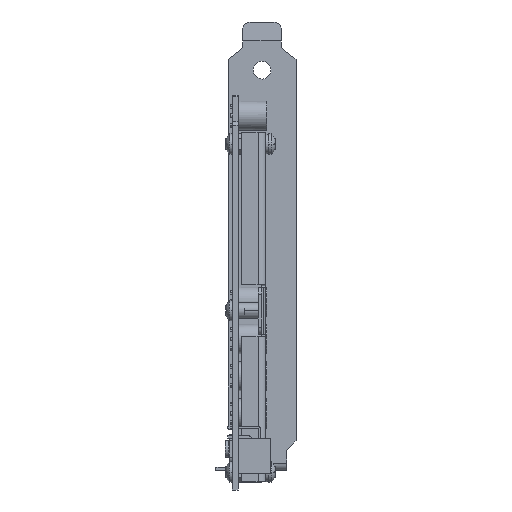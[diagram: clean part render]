
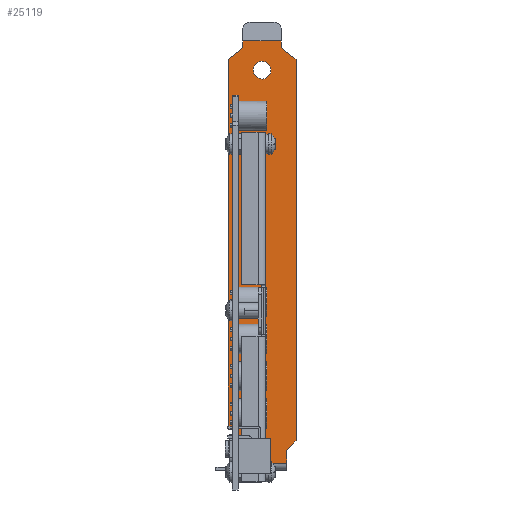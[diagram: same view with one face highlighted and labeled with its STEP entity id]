
A CAD part, front view. The second image highlights one B-rep face of the part: STEP entity #25119.
In plain terms, the highlighted planar face has unit normal (0, -1, 0).
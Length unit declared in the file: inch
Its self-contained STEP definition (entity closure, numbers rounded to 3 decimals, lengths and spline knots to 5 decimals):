
#4118=DIRECTION('',(0.,0.,1.));
#4119=VECTOR('',#4118,0.30948);
#4120=CARTESIAN_POINT('',(0.00593,0.33,
-3.72007));
#4121=LINE('',#4120,#4119);
#4122=CARTESIAN_POINT('',(-0.011,0.33,-3.3866));
#4123=DIRECTION('',(0.,1.,0.));
#4124=DIRECTION('',(0.,0.,1.));
#4125=AXIS2_PLACEMENT_3D('',#4122,#4123,#4124);
#4127=DIRECTION('',(-1.,0.,0.));
#4128=VECTOR('',#4127,0.036);
#4129=CARTESIAN_POINT('',(-0.011,0.33,-3.3572));
#4130=LINE('',#4129,#4128);
#4131=DIRECTION('',(0.,0.,-1.));
#4132=VECTOR('',#4131,3.9261);
#4133=CARTESIAN_POINT('',(-0.047,0.33,0.5689));
#4134=LINE('',#4133,#4132);
#4135=DIRECTION('',(-0.788,0.,-0.616));
#4136=VECTOR('',#4135,0.1967);
#4137=CARTESIAN_POINT('',(0.108,0.33,0.69));
#4138=LINE('',#4137,#4136);
#4139=DIRECTION('',(0.,0.,-1.));
#4140=VECTOR('',#4139,0.074);
#4141=CARTESIAN_POINT('',(0.108,0.33,0.764));
#4142=LINE('',#4141,#4140);
#4143=DIRECTION('',(1.,0.,0.));
#4144=VECTOR('',#4143,0.412);
#4145=CARTESIAN_POINT('',(0.108,0.33,0.764));
#4146=LINE('',#4145,#4144);
#4147=DIRECTION('',(0.,0.,-1.));
#4148=VECTOR('',#4147,0.074);
#4149=CARTESIAN_POINT('',(0.52,0.33,0.764));
#4150=LINE('',#4149,#4148);
#4151=DIRECTION('',(-0.788,0.,0.616));
#4152=VECTOR('',#4151,0.1967);
#4153=CARTESIAN_POINT('',(0.675,0.33,0.5689));
#4154=LINE('',#4153,#4152);
#4155=DIRECTION('',(0.707,0.,0.707));
#4156=VECTOR('',#4155,0.14142);
#4157=CARTESIAN_POINT('',(0.575,0.33,-3.583));
#4158=LINE('',#4157,#4156);
#4159=DIRECTION('',(0.,0.,1.));
#4160=VECTOR('',#4159,0.137);
#4161=CARTESIAN_POINT('',(0.575,0.33,-3.72));
#4162=LINE('',#4161,#4160);
#4163=DIRECTION('',(-1.,0.,0.));
#4164=VECTOR('',#4163,0.56907);
#4165=CARTESIAN_POINT('',(0.575,0.33,-3.72));
#4166=LINE('',#4165,#4164);
#4167=CARTESIAN_POINT('',(0.314,0.33,0.453));
#4168=DIRECTION('',(0.,1.,0.));
#4169=DIRECTION('',(0.,0.,1.));
#4170=AXIS2_PLACEMENT_3D('',#4167,#4168,#4169);
#4172=CARTESIAN_POINT('',(0.314,0.33,0.453));
#4173=DIRECTION('',(0.,1.,0.));
#4174=DIRECTION('',(0.,0.,-1.));
#4175=AXIS2_PLACEMENT_3D('',#4172,#4173,#4174);
#4177=CARTESIAN_POINT('',(0.239,0.33,-2.795));
#4178=DIRECTION('',(0.,1.,0.));
#4179=DIRECTION('',(1.,0.,0.));
#4180=AXIS2_PLACEMENT_3D('',#4177,#4178,#4179);
#4182=CARTESIAN_POINT('',(0.239,0.33,-2.795));
#4183=DIRECTION('',(0.,1.,0.));
#4184=DIRECTION('',(-1.,0.,0.));
#4185=AXIS2_PLACEMENT_3D('',#4182,#4183,#4184);
#4187=CARTESIAN_POINT('',(0.239,0.33,-2.4));
#4188=DIRECTION('',(0.,1.,0.));
#4189=DIRECTION('',(1.,0.,0.));
#4190=AXIS2_PLACEMENT_3D('',#4187,#4188,#4189);
#4192=CARTESIAN_POINT('',(0.239,0.33,-2.4));
#4193=DIRECTION('',(0.,1.,0.));
#4194=DIRECTION('',(-1.,0.,0.));
#4195=AXIS2_PLACEMENT_3D('',#4192,#4193,#4194);
#4197=CARTESIAN_POINT('',(0.239,0.33,-2.005));
#4198=DIRECTION('',(0.,1.,0.));
#4199=DIRECTION('',(1.,0.,0.));
#4200=AXIS2_PLACEMENT_3D('',#4197,#4198,#4199);
#4202=CARTESIAN_POINT('',(0.239,0.33,-2.005));
#4203=DIRECTION('',(0.,1.,0.));
#4204=DIRECTION('',(-1.,0.,0.));
#4205=AXIS2_PLACEMENT_3D('',#4202,#4203,#4204);
#4207=CARTESIAN_POINT('',(0.239,0.33,-3.19));
#4208=DIRECTION('',(0.,1.,0.));
#4209=DIRECTION('',(1.,0.,0.));
#4210=AXIS2_PLACEMENT_3D('',#4207,#4208,#4209);
#4212=CARTESIAN_POINT('',(0.239,0.33,-3.19));
#4213=DIRECTION('',(0.,1.,0.));
#4214=DIRECTION('',(-1.,0.,0.));
#4215=AXIS2_PLACEMENT_3D('',#4212,#4213,#4214);
#4217=CARTESIAN_POINT('',(0.239,0.33,-0.03));
#4218=DIRECTION('',(0.,-1.,0.));
#4219=DIRECTION('',(1.,0.,0.));
#4220=AXIS2_PLACEMENT_3D('',#4217,#4218,#4219);
#4222=CARTESIAN_POINT('',(0.239,0.33,-0.03));
#4223=DIRECTION('',(0.,-1.,0.));
#4224=DIRECTION('',(-1.,0.,0.));
#4225=AXIS2_PLACEMENT_3D('',#4222,#4223,#4224);
#4355=DIRECTION('',(0.,0.,1.));
#4356=VECTOR('',#4355,4.0519);
#4357=CARTESIAN_POINT('',(0.675,0.33,-3.483));
#4358=LINE('',#4357,#4356);
#19092=CARTESIAN_POINT('',(0.575,0.33,-3.72));
#19094=VERTEX_POINT('',#19092);
#19096=CARTESIAN_POINT('',(0.575,0.33,-3.583));
#19097=VERTEX_POINT('',#19096);
#19098=CARTESIAN_POINT('',(0.675,0.33,-3.483));
#19099=VERTEX_POINT('',#19098);
#19100=CARTESIAN_POINT('',(0.108,0.33,0.69));
#19101=CARTESIAN_POINT('',(-0.047,0.33,0.5689));
#19102=VERTEX_POINT('',#19100);
#19103=VERTEX_POINT('',#19101);
#19104=CARTESIAN_POINT('',(0.675,0.33,0.5689));
#19105=CARTESIAN_POINT('',(0.52,0.33,0.69));
#19106=VERTEX_POINT('',#19104);
#19107=VERTEX_POINT('',#19105);
#19212=CARTESIAN_POINT('',(0.314,0.33,0.5465));
#19213=CARTESIAN_POINT('',(0.314,0.33,0.3595));
#19214=VERTEX_POINT('',#19212);
#19215=VERTEX_POINT('',#19213);
#19216=CARTESIAN_POINT('',(0.108,0.33,0.764));
#19217=VERTEX_POINT('',#19216);
#19218=CARTESIAN_POINT('',(0.52,0.33,0.764));
#19219=VERTEX_POINT('',#19218);
#19236=CARTESIAN_POINT('',(0.364,0.33,-2.795));
#19237=CARTESIAN_POINT('',(0.114,0.33,-2.795));
#19238=VERTEX_POINT('',#19236);
#19239=VERTEX_POINT('',#19237);
#19256=CARTESIAN_POINT('',(0.364,0.33,-2.4));
#19257=CARTESIAN_POINT('',(0.114,0.33,-2.4));
#19258=VERTEX_POINT('',#19256);
#19259=VERTEX_POINT('',#19257);
#19260=CARTESIAN_POINT('',(0.364,0.33,-2.005));
#19261=CARTESIAN_POINT('',(0.114,0.33,-2.005));
#19262=VERTEX_POINT('',#19260);
#19263=VERTEX_POINT('',#19261);
#19264=CARTESIAN_POINT('',(0.364,0.33,-3.19));
#19265=CARTESIAN_POINT('',(0.114,0.33,-3.19));
#19266=VERTEX_POINT('',#19264);
#19267=VERTEX_POINT('',#19265);
#19284=CARTESIAN_POINT('',(-0.011,0.33,-3.3572));
#19285=CARTESIAN_POINT('',(-0.047,0.33,-3.3572));
#19286=VERTEX_POINT('',#19284);
#19287=VERTEX_POINT('',#19285);
#19300=CARTESIAN_POINT('',(0.006,0.33,-3.41059));
#19301=VERTEX_POINT('',#19300);
#19305=CARTESIAN_POINT('',(0.00593,0.33,
-3.72007));
#19306=VERTEX_POINT('',#19305);
#20263=CARTESIAN_POINT('',(0.363,0.33,-0.03));
#20264=CARTESIAN_POINT('',(0.115,0.33,-0.03));
#20265=VERTEX_POINT('',#20263);
#20266=VERTEX_POINT('',#20264);
#25053=CARTESIAN_POINT('',(0.675,0.33,-3.72));
#25054=DIRECTION('',(0.,1.,0.));
#25055=DIRECTION('',(0.,0.,1.));
#25056=AXIS2_PLACEMENT_3D('',#25053,#25054,#25055);
#25057=PLANE('',#25056);
#25058=ORIENTED_EDGE('',*,*,#24775,.T.);
#25059=ORIENTED_EDGE('',*,*,#24830,.F.);
#25061=ORIENTED_EDGE('',*,*,#25060,.T.);
#25063=ORIENTED_EDGE('',*,*,#25062,.F.);
#25065=ORIENTED_EDGE('',*,*,#25064,.F.);
#25067=ORIENTED_EDGE('',*,*,#25066,.F.);
#25069=ORIENTED_EDGE('',*,*,#25068,.T.);
#25071=ORIENTED_EDGE('',*,*,#25070,.T.);
#25073=ORIENTED_EDGE('',*,*,#25072,.F.);
#25075=ORIENTED_EDGE('',*,*,#25074,.F.);
#25077=ORIENTED_EDGE('',*,*,#25076,.F.);
#25079=ORIENTED_EDGE('',*,*,#25078,.F.);
#25080=ORIENTED_EDGE('',*,*,#25040,.T.);
#25081=EDGE_LOOP('',(#25058,#25059,#25061,#25063,#25065,#25067,#25069,#25071,
#25073,#25075,#25077,#25079,#25080));
#25082=FACE_OUTER_BOUND('',#25081,.F.);
#25084=ORIENTED_EDGE('',*,*,#25083,.F.);
#25086=ORIENTED_EDGE('',*,*,#25085,.F.);
#25087=EDGE_LOOP('',(#25084,#25086));
#25088=FACE_BOUND('',#25087,.F.);
#25090=ORIENTED_EDGE('',*,*,#25089,.F.);
#25092=ORIENTED_EDGE('',*,*,#25091,.F.);
#25093=EDGE_LOOP('',(#25090,#25092));
#25094=FACE_BOUND('',#25093,.F.);
#25096=ORIENTED_EDGE('',*,*,#25095,.F.);
#25098=ORIENTED_EDGE('',*,*,#25097,.F.);
#25099=EDGE_LOOP('',(#25096,#25098));
#25100=FACE_BOUND('',#25099,.F.);
#25102=ORIENTED_EDGE('',*,*,#25101,.F.);
#25104=ORIENTED_EDGE('',*,*,#25103,.F.);
#25105=EDGE_LOOP('',(#25102,#25104));
#25106=FACE_BOUND('',#25105,.F.);
#25108=ORIENTED_EDGE('',*,*,#25107,.F.);
#25110=ORIENTED_EDGE('',*,*,#25109,.F.);
#25111=EDGE_LOOP('',(#25108,#25110));
#25112=FACE_BOUND('',#25111,.F.);
#25114=ORIENTED_EDGE('',*,*,#25113,.T.);
#25116=ORIENTED_EDGE('',*,*,#25115,.T.);
#25117=EDGE_LOOP('',(#25114,#25116));
#25118=FACE_BOUND('',#25117,.F.);
#25119=ADVANCED_FACE('',(#25082,#25088,#25094,#25100,#25106,#25112,#25118),
#25057,.F.);
#4126=CIRCLE('',#4125,0.0294);
#4171=CIRCLE('',#4170,0.0935);
#4176=CIRCLE('',#4175,0.0935);
#4181=CIRCLE('',#4180,0.125);
#4186=CIRCLE('',#4185,0.125);
#4191=CIRCLE('',#4190,0.125);
#4196=CIRCLE('',#4195,0.125);
#4201=CIRCLE('',#4200,0.125);
#4206=CIRCLE('',#4205,0.125);
#4211=CIRCLE('',#4210,0.125);
#4216=CIRCLE('',#4215,0.125);
#4221=CIRCLE('',#4220,0.124);
#4226=CIRCLE('',#4225,0.124);
#24775=EDGE_CURVE('',#19306,#19301,#4121,.T.);
#24830=EDGE_CURVE('',#19286,#19301,#4126,.T.);
#25040=EDGE_CURVE('',#19094,#19306,#4166,.T.);
#25060=EDGE_CURVE('',#19286,#19287,#4130,.T.);
#25062=EDGE_CURVE('',#19103,#19287,#4134,.T.);
#25064=EDGE_CURVE('',#19102,#19103,#4138,.T.);
#25066=EDGE_CURVE('',#19217,#19102,#4142,.T.);
#25068=EDGE_CURVE('',#19217,#19219,#4146,.T.);
#25070=EDGE_CURVE('',#19219,#19107,#4150,.T.);
#25072=EDGE_CURVE('',#19106,#19107,#4154,.T.);
#25074=EDGE_CURVE('',#19099,#19106,#4358,.T.);
#25076=EDGE_CURVE('',#19097,#19099,#4158,.T.);
#25078=EDGE_CURVE('',#19094,#19097,#4162,.T.);
#25083=EDGE_CURVE('',#19214,#19215,#4171,.T.);
#25085=EDGE_CURVE('',#19215,#19214,#4176,.T.);
#25089=EDGE_CURVE('',#19238,#19239,#4181,.T.);
#25091=EDGE_CURVE('',#19239,#19238,#4186,.T.);
#25095=EDGE_CURVE('',#19258,#19259,#4191,.T.);
#25097=EDGE_CURVE('',#19259,#19258,#4196,.T.);
#25101=EDGE_CURVE('',#19262,#19263,#4201,.T.);
#25103=EDGE_CURVE('',#19263,#19262,#4206,.T.);
#25107=EDGE_CURVE('',#19266,#19267,#4211,.T.);
#25109=EDGE_CURVE('',#19267,#19266,#4216,.T.);
#25113=EDGE_CURVE('',#20265,#20266,#4221,.T.);
#25115=EDGE_CURVE('',#20266,#20265,#4226,.T.);
